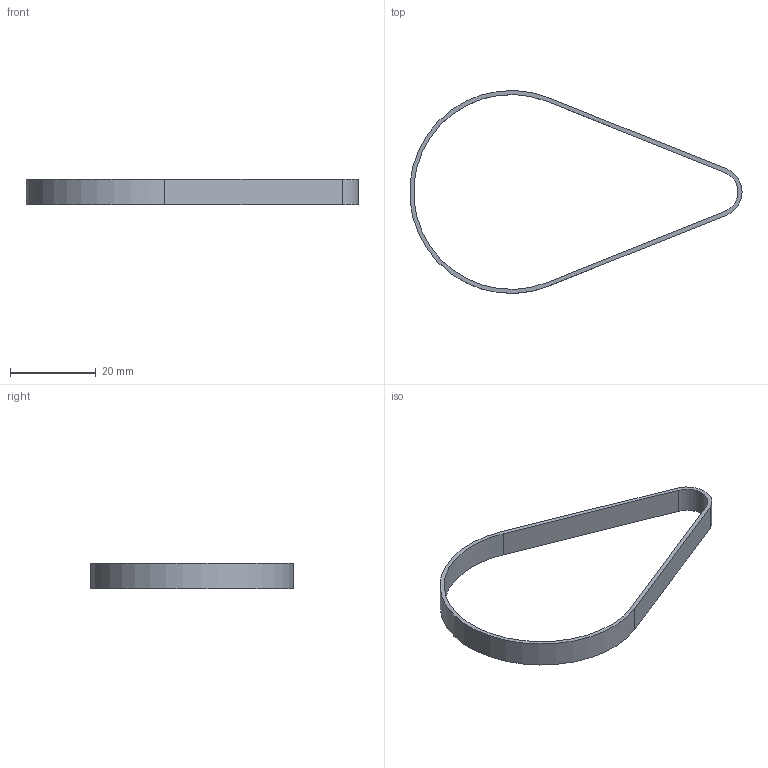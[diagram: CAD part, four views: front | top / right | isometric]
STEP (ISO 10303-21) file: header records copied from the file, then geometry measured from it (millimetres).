
FILE_DESCRIPTION(('Open CASCADE Model'),'2;1');
FILE_NAME('Open CASCADE Shape Model','2026-11-01T16:34:15',('Author'),( 'Open CASCADE'),'Open CASCADE STEP processor 8.0','build123d', 'Unknown');
FILE_SCHEMA(('AUTOMOTIVE_DESIGN { 1 0 10303 214 1 1 1 1 }'));
Length unit declared in the file: millimetre
Products named in the file (1): SOLID
Bounding box: 77.42 x 47.29 x 6 mm (x, y, z)
Volume: 1096.7 mm3; surface area: 2674.4 mm2
Topology: 1 solids, 1 shells, 10 faces, 24 edges, 16 vertices
Faces by surface type: plane 6, cylinder 4
Entity records: 626 total; most frequent: CARTESIAN_POINT 131, DIRECTION 90, ORIENTED_EDGE 48, LINE 48, VECTOR 48, PCURVE 48, DEFINITIONAL_REPRESENTATION 48, EDGE_CURVE 24
